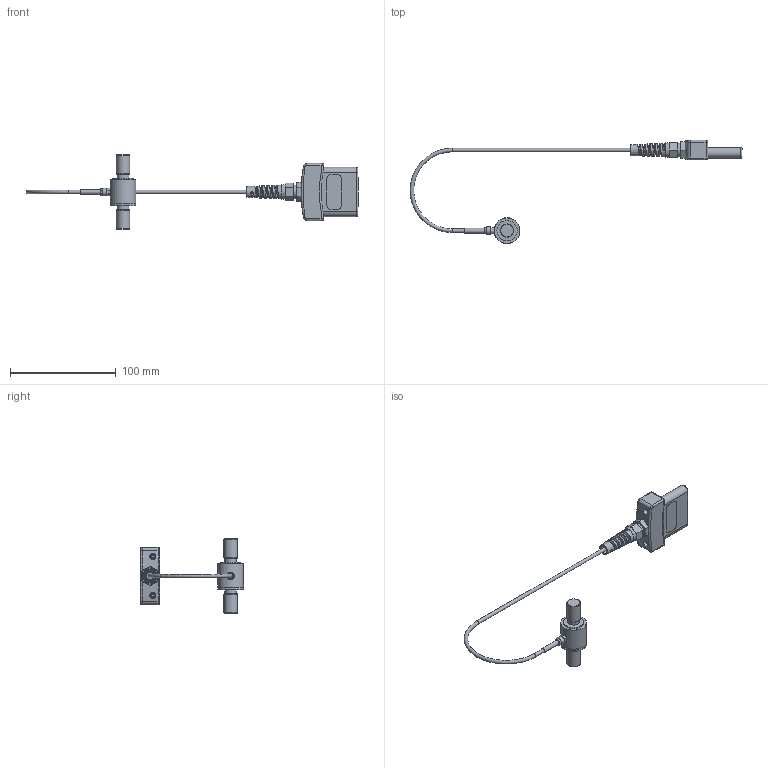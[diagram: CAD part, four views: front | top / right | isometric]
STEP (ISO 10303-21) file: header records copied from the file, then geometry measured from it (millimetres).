
FILE_DESCRIPTION(/* description */ (''),/* implementation_level */ '2;1');
FILE_NAME(/* name */ 'F:\MARKETING\SOLID MODELS\FORCE SENSORS\MR08\MR08-5000, SENSOR.step',/* time_stamp */ '2024-07-16T11:45:57-04:00',/* author */ ('ntakaki'),/* organization */ (''),/* preprocessor_version */ 'ST-DEVELOPER v18.1',/* originating_system */ 'AutoCAD Mechanical',/* authorisation */ '');
FILE_SCHEMA (('AUTOMOTIVE_DESIGN { 1 0 10303 214 3 1 1 }'));
Length unit declared in the file: inch
Products named in the file (1): Product
Bounding box: 313.78 x 97.55 x 70.36 mm (x, y, z)
Volume: 56682.9 mm3; surface area: 22732.7 mm2
Topology: 2 solids, 2 shells, 346 faces, 803 edges, 491 vertices
Faces by surface type: plane 133, bspline 78, cylinder 72, cone 49, torus 10, sphere 4
Full cylindrical faces by diameter (mm): 3.429 x2, 3.493 x1, 4.635 x1, 4.648 x2, 5.842 x2, 7.163 x1, 7.62 x5, 10.922 x2, 11.176 x1, 12.7 x3, 19.05 x1, 19.329 x1, 23.774 x1, 24.409 x2
Entity records: 14990 total; most frequent: CARTESIAN_POINT 7682, ORIENTED_EDGE 1598, DIRECTION 1330, EDGE_CURVE 799, AXIS2_PLACEMENT_3D 513, VERTEX_POINT 491, EDGE_LOOP 382, FACE_OUTER_BOUND 346
